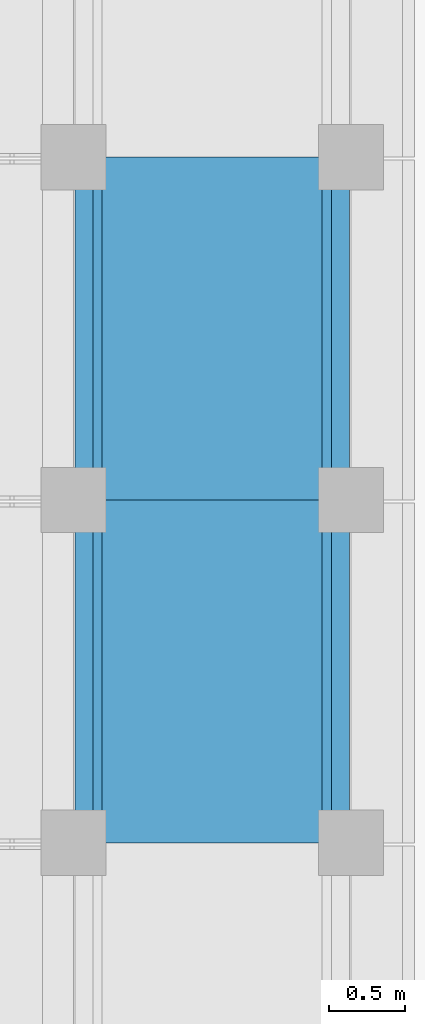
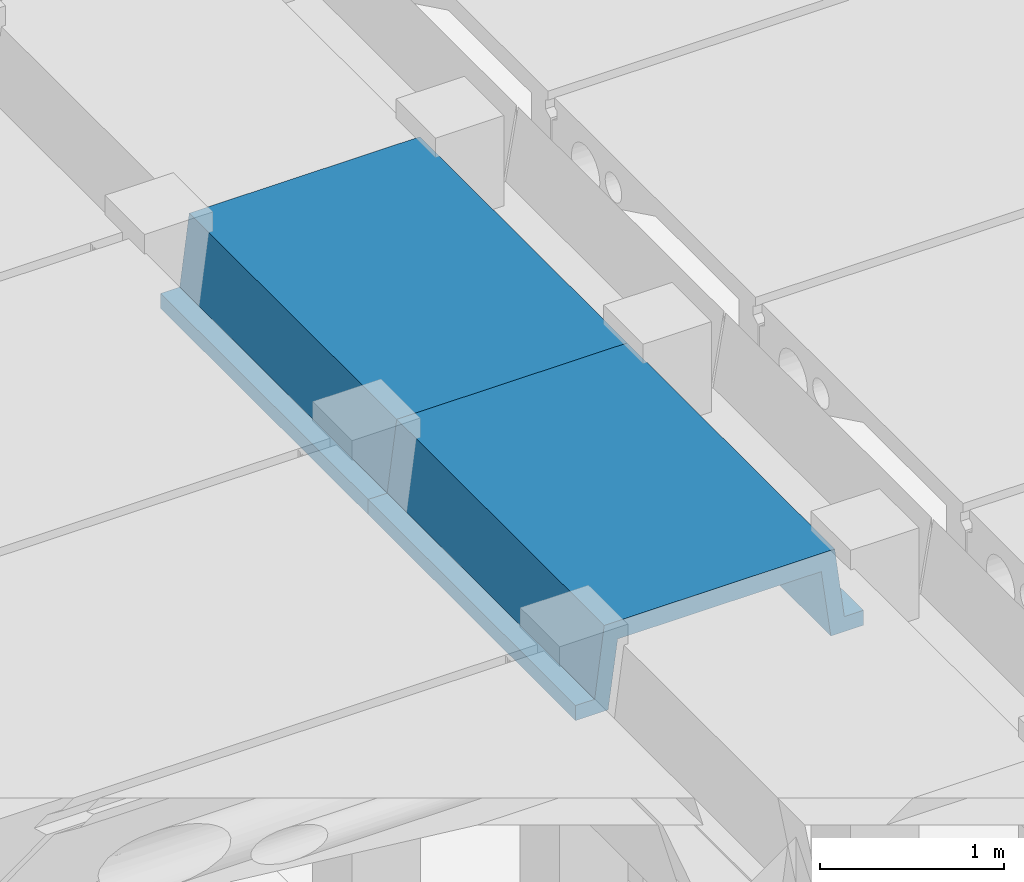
# One storey, part 19 of 25: 2 beams.
"""IFC2X3 building model written with IfcOpenShell, lengths in millimetres."""

from ifc_helpers import new_model, entity, si_unit, converted_unit, derived_unit, direction, frame, origin, place, context, subcontext, project, spatial, polyline, outline, extrude, material, type_object, element, save


model = new_model("IFC2X3")

# Units and contexts
model_context = context("Model", 3, precision=0.01, world=origin(), true_north=direction((6.12303176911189e-17, 1.0)))
body_context = subcontext(model_context, "Body", "Model", "MODEL_VIEW")
ifc_project = project(units=[si_unit("LENGTHUNIT", "METRE", prefix="MILLI"), si_unit("AREAUNIT", "SQUARE_METRE"), si_unit("VOLUMEUNIT", "CUBIC_METRE"), converted_unit("PLANEANGLEUNIT", "DEGREE", entity("IfcRatioMeasure", 0.0174532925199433), si_unit("PLANEANGLEUNIT", "RADIAN"), dimensions=[0, 0, 0, 0, 0, 0, 0]), si_unit("MASSUNIT", "GRAM", prefix="KILO"), derived_unit("MASSDENSITYUNIT", [(si_unit("MASSUNIT", "GRAM", prefix="KILO"), 1), (si_unit("LENGTHUNIT", "METRE"), -3)]), derived_unit("MOMENTOFINERTIAUNIT", [(si_unit("LENGTHUNIT", "METRE"), 4)]), si_unit("TIMEUNIT", "SECOND"), si_unit("FREQUENCYUNIT", "HERTZ"), si_unit("THERMODYNAMICTEMPERATUREUNIT", "DEGREE_CELSIUS"), derived_unit("THERMALTRANSMITTANCEUNIT", [(si_unit("MASSUNIT", "GRAM", prefix="KILO"), 1), (si_unit("THERMODYNAMICTEMPERATUREUNIT", "KELVIN"), -1), (si_unit("TIMEUNIT", "SECOND"), -3)]), derived_unit("VOLUMETRICFLOWRATEUNIT", [(si_unit("LENGTHUNIT", "METRE"), 3), (si_unit("TIMEUNIT", "SECOND"), -1)]), si_unit("ELECTRICCURRENTUNIT", "AMPERE"), si_unit("ELECTRICVOLTAGEUNIT", "VOLT"), si_unit("POWERUNIT", "WATT"), si_unit("FORCEUNIT", "NEWTON", prefix="KILO"), si_unit("ILLUMINANCEUNIT", "LUX"), si_unit("LUMINOUSFLUXUNIT", "LUMEN"), si_unit("LUMINOUSINTENSITYUNIT", "CANDELA"), derived_unit("USERDEFINED", [(si_unit("MASSUNIT", "GRAM", prefix="KILO"), -1), (si_unit("LENGTHUNIT", "METRE"), -2), (si_unit("TIMEUNIT", "SECOND"), 3), (si_unit("LUMINOUSFLUXUNIT", "LUMEN"), 1)]), derived_unit("LINEARVELOCITYUNIT", [(si_unit("LENGTHUNIT", "METRE"), 1), (si_unit("TIMEUNIT", "SECOND"), -1)]), si_unit("PRESSUREUNIT", "PASCAL"), derived_unit("USERDEFINED", [(si_unit("LENGTHUNIT", "METRE"), -2), (si_unit("MASSUNIT", "GRAM", prefix="KILO"), 1), (si_unit("TIMEUNIT", "SECOND"), -2)]), derived_unit("LINEARFORCEUNIT", [(si_unit("MASSUNIT", "GRAM", prefix="KILO"), 1), (si_unit("LENGTHUNIT", "METRE"), 1), (si_unit("TIMEUNIT", "SECOND"), -2), (si_unit("LENGTHUNIT", "METRE"), -1)]), derived_unit("PLANARFORCEUNIT", [(si_unit("MASSUNIT", "GRAM", prefix="KILO"), 1), (si_unit("LENGTHUNIT", "METRE"), 1), (si_unit("TIMEUNIT", "SECOND"), -2), (si_unit("LENGTHUNIT", "METRE"), -2)])], contexts=[model_context])

# Site, building, storey
site_placement = place(None, frame((10627.5135316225, 21939.0796949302, 0.0)))
site = spatial("IfcSite", under=ifc_project, at=site_placement, Name="Default", CompositionType="ELEMENT")
building_placement = place(site_placement, origin())
building = spatial("IfcBuilding", under=site, at=building_placement, CompositionType="ELEMENT")
storey_placement = place(building_placement, origin())
storey = spatial("IfcBuildingStorey", under=building, at=storey_placement, Name="RDC", CompositionType="ELEMENT", Elevation=0.0)

# Beams
ifc_material = material(Name="Concrete, Precast Smooth, Light Grey")
beam_type = type_object("IfcBeamType", Name="Poutre petite:Poutre petite", PredefinedType="NOTDEFINED")
for number, where, z_axis, x_axis, name in (
    (1, (52487.4864683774, 7440.92030506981, 3530.0), (0.0, 0.0, 1.0), (0.0, 1.0, 0.0), "Poutre petite:Poutre petite"),
    (2, (52487.4864683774, 5180.92030506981, 3530.0), (0.0, 0.0, 1.0), (0.0, 1.0, 0.0), "Poutre petite:Poutre petite"),
):
    element("IfcBeam", number, at=place(storey_placement, frame(where, z_axis=z_axis, x_axis=x_axis)), inside=storey, type_object=beam_type, material=ifc_material, Name=name, ObjectType="Poutre petite:Poutre petite", context=body_context, shape_type="SweptSolid", body=[
        extrude(outline(polyline([(103.333217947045, -905.014058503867), (203.333564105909, -905.014058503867), (203.333564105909, -700.0135432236), (-246.666782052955, -640.013497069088), (-246.666782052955, 640.013684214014), (203.333564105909, 700.013730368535), (203.333564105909, 905.013684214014), (103.333217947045, 905.013684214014), (103.333217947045, 785.013684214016), (-366.666782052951, 725.01368421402), (-366.666782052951, -725.013497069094), (103.333217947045, -785.013497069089), (103.333217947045, -905.014058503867)])), frame((0.0, 0.000187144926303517, -366.666782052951), z_axis=(1.0, 0.0, 0.0), x_axis=(0.0, 0.0, -1.0)), (0.0, 0.0, 1.0), 2260.0),
    ])

save(model, "model.ifc")
